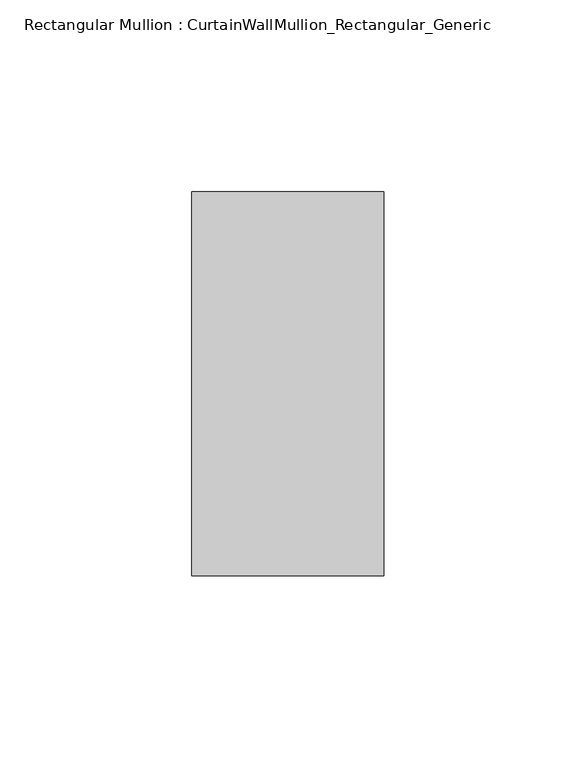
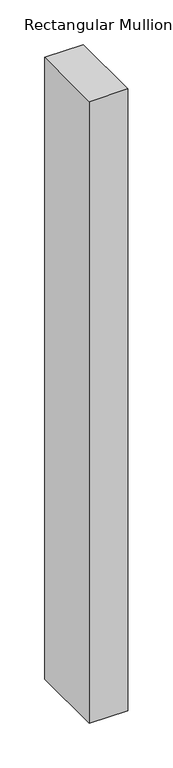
"""IFC4 building model written with IfcOpenShell, lengths in millimetres: member geometry, Rectangular Mullion : CurtainWallMullion_Rectangular_Generic."""

from ifc_helpers import new_model, si_unit, frame, origin, place, context, project, spatial, polyline, outline, extrude, source, transform, mapped, element, save


def rectangular_mullion_curtainwallmullion_rectangular_generic_d70bf6dd(model_context):
    return source(origin(), model_context, "Body", "SweptSolid", [
        extrude(outline(polyline([(0.0, 50.0), (0.0, -50.0), (-50.0, -50.0), (-50.0, 50.0), (0.0, 50.0)])), frame((0.0, 0.0, -850.0), z_axis=(0.0, 0.0, 1.0), x_axis=(1.0, 0.0, 0.0)), (0.0, 0.0, 1.0), 850.0),
    ])


if __name__ == "__main__":
    model = new_model("IFC4")
    model_context = context("Model", 3, world=origin())
    ifc_project = project(units=[si_unit("LENGTHUNIT", "METRE", prefix="MILLI")], contexts=[model_context])
    site = spatial("IfcSite", under=ifc_project)
    building = spatial("IfcBuilding", under=site)
    placement = place(None, origin())
    rectangular_mullion_curtainwallmullion_rectangular_generic_shape = rectangular_mullion_curtainwallmullion_rectangular_generic_d70bf6dd(model_context)
    element("IfcMember", 1, ObjectType="Rectangular Mullion : CurtainWallMullion_Rectangular_Generic", at=placement, inside=building, context=model_context, shape_type="MappedRepresentation", body=[
        mapped(rectangular_mullion_curtainwallmullion_rectangular_generic_shape, transform((0.0, 0.0, 0.0), x_axis=(1.0, 0.0, 0.0), y_axis=(0.0, 1.0, 0.0), z_axis=(0.0, 0.0, 1.0))),
    ])
    save(model, "model.ifc")
